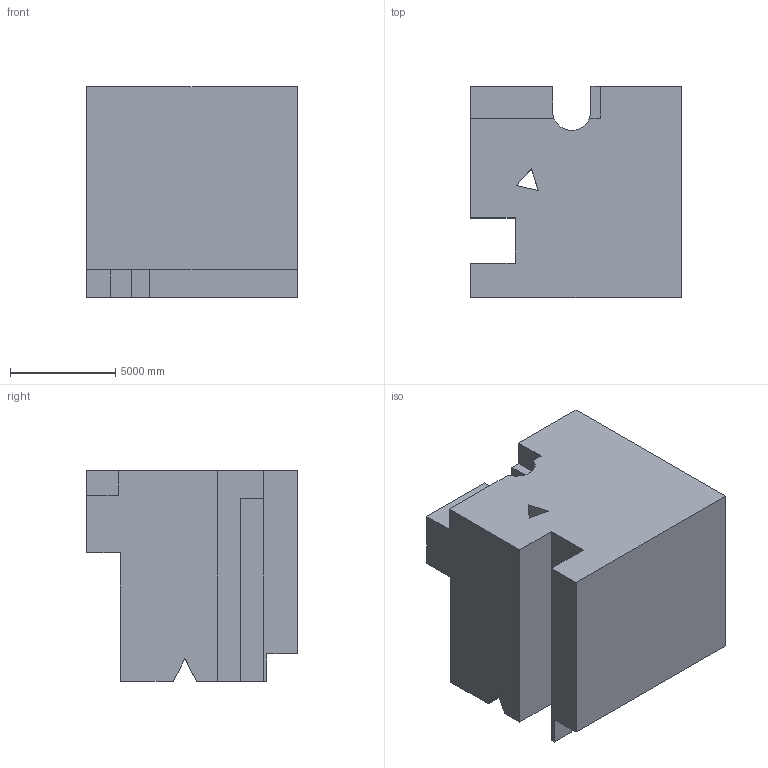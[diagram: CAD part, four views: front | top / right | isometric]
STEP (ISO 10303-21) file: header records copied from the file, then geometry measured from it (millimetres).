
FILE_DESCRIPTION (( 'STEP AP203' ), '1' );
FILE_NAME ('1854.STEP', '2022-08-19T13:34:26', ( 'user' ), ( '' ), 'SwSTEP 2.0', 'SolidWorks 2021', '' );
FILE_SCHEMA (( 'CONFIG_CONTROL_DESIGN' ));
Length unit declared in the file: centimetre
Products named in the file (1): 1854
Bounding box: 10000 x 10000 x 10000 mm (x, y, z)
Volume: 757108477417.1 mm3; surface area: 706963377.7 mm2
Topology: 1 solids, 1 shells, 42 faces, 120 edges, 80 vertices
Faces by surface type: plane 41, cylinder 1
Entity records: 1429 total; most frequent: CARTESIAN_POINT 243, ORIENTED_EDGE 240, DIRECTION 210, EDGE_CURVE 120, LINE 116, VECTOR 116, VERTEX_POINT 80, AXIS2_PLACEMENT_3D 47
